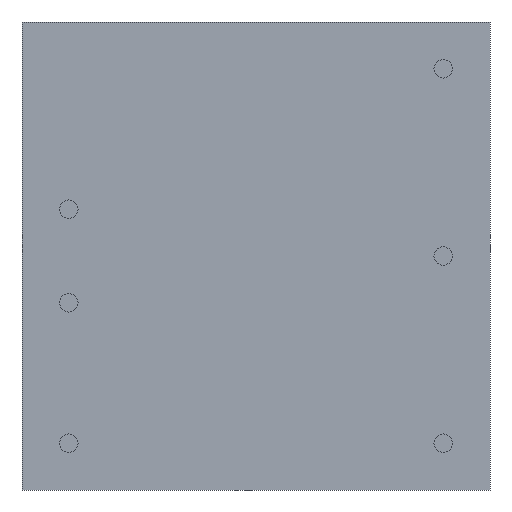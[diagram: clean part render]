
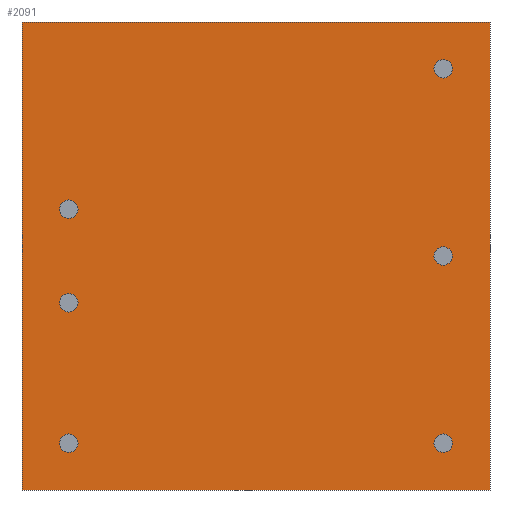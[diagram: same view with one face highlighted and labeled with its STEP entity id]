
A CAD part, front view. The second image highlights one B-rep face of the part: STEP entity #2091.
In plain terms, the highlighted planar face has unit normal (0, -1, 0).
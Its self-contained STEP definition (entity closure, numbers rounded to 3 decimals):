
#108=CIRCLE('',#2161,0.5);
#110=CIRCLE('',#2165,0.5);
#112=CIRCLE('',#2169,0.5);
#114=CIRCLE('',#2173,0.5);
#116=CIRCLE('',#2177,0.5);
#118=CIRCLE('',#2181,0.5);
#477=ORIENTED_EDGE('',*,*,#810,.T.);
#478=ORIENTED_EDGE('',*,*,#807,.T.);
#479=ORIENTED_EDGE('',*,*,#804,.T.);
#480=ORIENTED_EDGE('',*,*,#801,.T.);
#481=ORIENTED_EDGE('',*,*,#798,.T.);
#482=ORIENTED_EDGE('',*,*,#788,.T.);
#483=ORIENTED_EDGE('',*,*,#796,.T.);
#484=ORIENTED_EDGE('',*,*,#790,.T.);
#485=ORIENTED_EDGE('',*,*,#792,.T.);
#486=ORIENTED_EDGE('',*,*,#794,.T.);
#788=EDGE_CURVE('',#968,#968,#108,.T.);
#790=EDGE_CURVE('',#970,#970,#110,.T.);
#792=EDGE_CURVE('',#972,#972,#112,.T.);
#794=EDGE_CURVE('',#974,#974,#114,.T.);
#796=EDGE_CURVE('',#976,#976,#116,.T.);
#798=EDGE_CURVE('',#978,#978,#118,.T.);
#801=EDGE_CURVE('',#982,#981,#1069,.T.);
#804=EDGE_CURVE('',#984,#982,#1072,.T.);
#807=EDGE_CURVE('',#986,#984,#1075,.T.);
#810=EDGE_CURVE('',#981,#986,#1078,.T.);
#968=VERTEX_POINT('',#4117);
#970=VERTEX_POINT('',#4123);
#972=VERTEX_POINT('',#4129);
#974=VERTEX_POINT('',#4135);
#976=VERTEX_POINT('',#4141);
#978=VERTEX_POINT('',#4147);
#981=VERTEX_POINT('',#4153);
#982=VERTEX_POINT('',#4155);
#984=VERTEX_POINT('',#4161);
#986=VERTEX_POINT('',#4167);
#1069=LINE('',#4154,#1121);
#1072=LINE('',#4160,#1124);
#1075=LINE('',#4166,#1127);
#1078=LINE('',#4171,#1130);
#1121=VECTOR('',#2334,1000.);
#1124=VECTOR('',#2339,1000.);
#1127=VECTOR('',#2344,1000.);
#1130=VECTOR('',#2349,1000.);
#1210=EDGE_LOOP('',(#477,#478,#479,#480));
#1211=EDGE_LOOP('',(#481));
#1212=EDGE_LOOP('',(#482));
#1213=EDGE_LOOP('',(#483));
#1214=EDGE_LOOP('',(#484));
#1215=EDGE_LOOP('',(#485));
#1216=EDGE_LOOP('',(#486));
#1316=FACE_BOUND('',#1210,.T.);
#1317=FACE_BOUND('',#1211,.T.);
#1318=FACE_BOUND('',#1212,.T.);
#1319=FACE_BOUND('',#1213,.T.);
#1320=FACE_BOUND('',#1214,.T.);
#1321=FACE_BOUND('',#1215,.T.);
#1322=FACE_BOUND('',#1216,.T.);
#1378=PLANE('',#2186);
#2091=ADVANCED_FACE('',(#1316,#1317,#1318,#1319,#1320,#1321,#1322),#1378,
 .F.);
#2161=AXIS2_PLACEMENT_3D('',#4116,#2288,#2289);
#2165=AXIS2_PLACEMENT_3D('',#4122,#2296,#2297);
#2169=AXIS2_PLACEMENT_3D('',#4128,#2304,#2305);
#2173=AXIS2_PLACEMENT_3D('',#4134,#2312,#2313);
#2177=AXIS2_PLACEMENT_3D('',#4140,#2320,#2321);
#2181=AXIS2_PLACEMENT_3D('',#4146,#2328,#2329);
#2186=AXIS2_PLACEMENT_3D('',#4172,#2350,#2351);
#2288=DIRECTION('',(0.,1.,0.));
#2289=DIRECTION('',(0.,0.,1.));
#2296=DIRECTION('',(0.,1.,0.));
#2297=DIRECTION('',(0.,0.,1.));
#2304=DIRECTION('',(0.,1.,0.));
#2305=DIRECTION('',(0.,0.,1.));
#2312=DIRECTION('',(0.,1.,0.));
#2313=DIRECTION('',(0.,0.,1.));
#2320=DIRECTION('',(0.,1.,0.));
#2321=DIRECTION('',(0.,0.,1.));
#2328=DIRECTION('',(0.,1.,0.));
#2329=DIRECTION('',(0.,0.,1.));
#2334=DIRECTION('',(0.,0.,1.));
#2339=DIRECTION('',(1.,0.,0.));
#2344=DIRECTION('',(0.,0.,-1.));
#2349=DIRECTION('',(-1.,0.,0.));
#2350=DIRECTION('',(0.,1.,0.));
#2351=DIRECTION('',(0.,0.,1.));
#4116=CARTESIAN_POINT('',(-10.16,-0.6,2.54));
#4117=CARTESIAN_POINT('',(-10.16,-0.6,3.04));
#4122=CARTESIAN_POINT('',(-10.16,-0.6,-2.54));
#4123=CARTESIAN_POINT('',(-10.16,-0.6,-2.04));
#4128=CARTESIAN_POINT('',(10.16,-0.6,-10.16));
#4129=CARTESIAN_POINT('',(10.16,-0.6,-9.66));
#4134=CARTESIAN_POINT('',(10.16,-0.6,10.16));
#4135=CARTESIAN_POINT('',(10.16,-0.6,10.66));
#4140=CARTESIAN_POINT('',(-10.16,-0.6,-10.16));
#4141=CARTESIAN_POINT('',(-10.16,-0.6,-9.66));
#4146=CARTESIAN_POINT('',(10.16,-0.6,0.));
#4147=CARTESIAN_POINT('',(10.16,-0.6,0.5));
#4153=CARTESIAN_POINT('',(12.7,-0.6,12.7));
#4154=CARTESIAN_POINT('',(12.7,-0.6,-12.7));
#4155=CARTESIAN_POINT('',(12.7,-0.6,-12.7));
#4160=CARTESIAN_POINT('',(-12.7,-0.6,-12.7));
#4161=CARTESIAN_POINT('',(-12.7,-0.6,-12.7));
#4166=CARTESIAN_POINT('',(-12.7,-0.6,12.7));
#4167=CARTESIAN_POINT('',(-12.7,-0.6,12.7));
#4171=CARTESIAN_POINT('',(12.7,-0.6,12.7));
#4172=CARTESIAN_POINT('',(0.,-0.6,0.));
